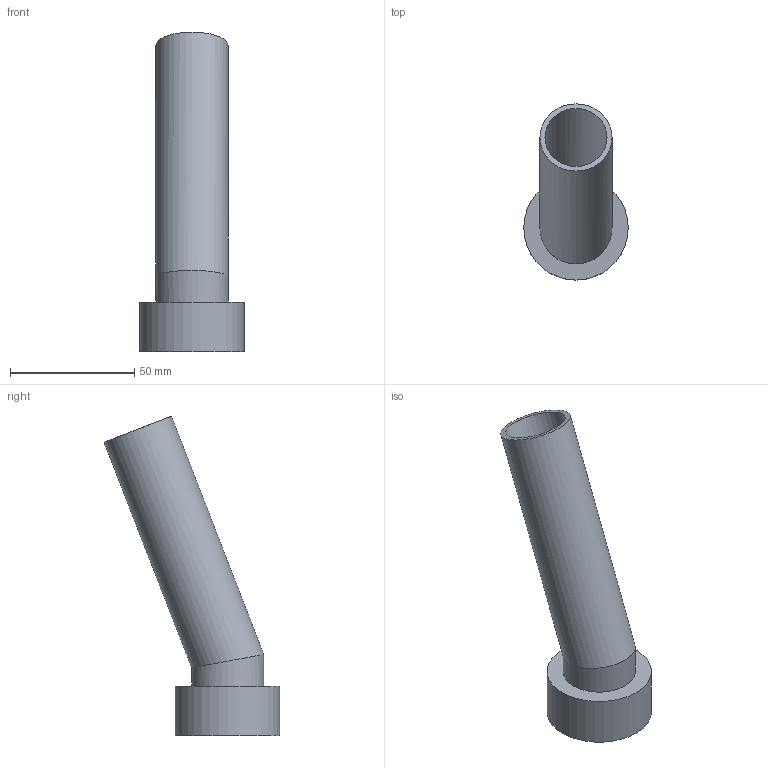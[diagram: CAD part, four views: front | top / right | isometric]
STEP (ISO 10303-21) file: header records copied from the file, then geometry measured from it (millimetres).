
FILE_DESCRIPTION(('STEP AP242 Edition 2','STEP AP242 Edition 2''CAx-IF Rec.Pracs.---Representation and Presentation of Product Manufacturing Information (PMI)---4.0---2014-10-13','STEP AP242 Edition 2''CAx-IF Rec.Pracs.---Representation and Presentation of Product Manufacturing Information (PMI)---4.0---2014-10-13''CAx-IF Rec.Pracs.---3D Tessellated Geometry---0.4---2014-09-14','STEP AP242 Edition 2''CAx-IF Rec.Pracs.---Representation and Presentation of Product Manufacturing Information (PMI)---4.0---2014-10-13''CAx-IF Rec.Pracs.---3D Tessellated Geometry---0.4---2014-09-14''2;1','STEP AP242 Edition 2''CAx-IF Rec.Pracs.---Representation and Presentation of Product Manufacturing Information (PMI)---4.0---2014-10-13''CAx-IF Rec.Pracs.---3D Tessellated Geometry---0.4---2014-09-14''2;1''CAx-IF Rec.Pracs.---User Defined Attributes---1.5---2016-08-15'),'2;1');
FILE_NAME('/vol/tmp/translate-10485260753642857821/Part Studio 1 - Part 1.step','2026-03-23T13:24:31',(''),(''),'ST-DEVELOPER v20','ONSHAPE BY PTC INC, 1.212',' ');
FILE_SCHEMA(('AP242_MANAGED_MODEL_BASED_3D_ENGINEERING_MIM_LF { 1 0 10303 442 3 1 4 }'));
Length unit declared in the file: metre
Products named in the file (1): Part 1
Bounding box: 42 x 70.67 x 128.48 mm (x, y, z)
Volume: 36552.4 mm3; surface area: 24659.9 mm2
Topology: 1 solids, 1 shells, 8 faces, 15 edges, 10 vertices
Faces by surface type: cylinder 5, plane 3
Full cylindrical faces by diameter (mm): 25 x2, 29 x2, 42 x1
Entity records: 190 total; most frequent: DIRECTION 34, CARTESIAN_POINT 25, AXIS2_PLACEMENT_3D 17, ORIENTED_EDGE 16, EDGE_LOOP 16, FACE_BOUND 16, EDGE_CURVE 8, VERTEX_POINT 8
